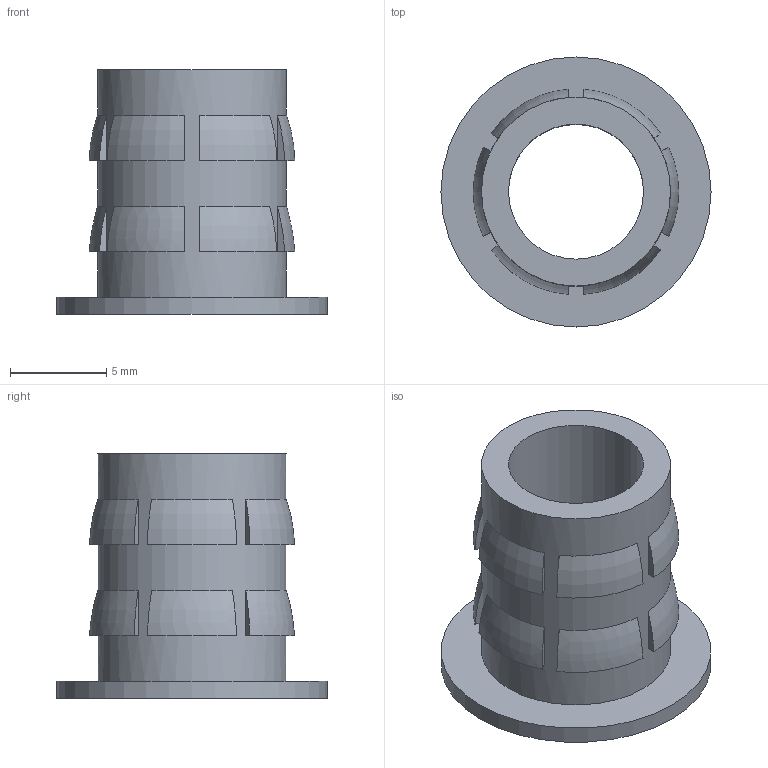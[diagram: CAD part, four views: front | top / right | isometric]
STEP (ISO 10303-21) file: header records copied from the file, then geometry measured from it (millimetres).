
FILE_DESCRIPTION (( 'STEP AP214' ), '1' );
FILE_NAME ('flanged insert M8.STEP', '2017-08-09T10:46:47', ( '微软用户' ), ( '微软中国' ), 'SwSTEP 2.0', 'SolidWorks 2015', '' );
FILE_SCHEMA (( 'AUTOMOTIVE_DESIGN' ));
Length unit declared in the file: millimetre
Products named in the file (1): flanged insert M8
Bounding box: 14 x 14 x 12.7 mm (x, y, z)
Volume: 561.3 mm3; surface area: 951 mm2
Topology: 1 solids, 1 shells, 55 faces, 125 edges, 83 vertices
Faces by surface type: plane 39, torus 12, cylinder 3, cone 1
Full cylindrical faces by diameter (mm): 7 x1, 9.798 x1, 14 x1
Entity records: 1585 total; most frequent: CARTESIAN_POINT 346, DIRECTION 246, ORIENTED_EDGE 230, EDGE_CURVE 115, AXIS2_PLACEMENT_3D 99, VERTEX_POINT 79, EDGE_LOOP 74, FACE_OUTER_BOUND 58
